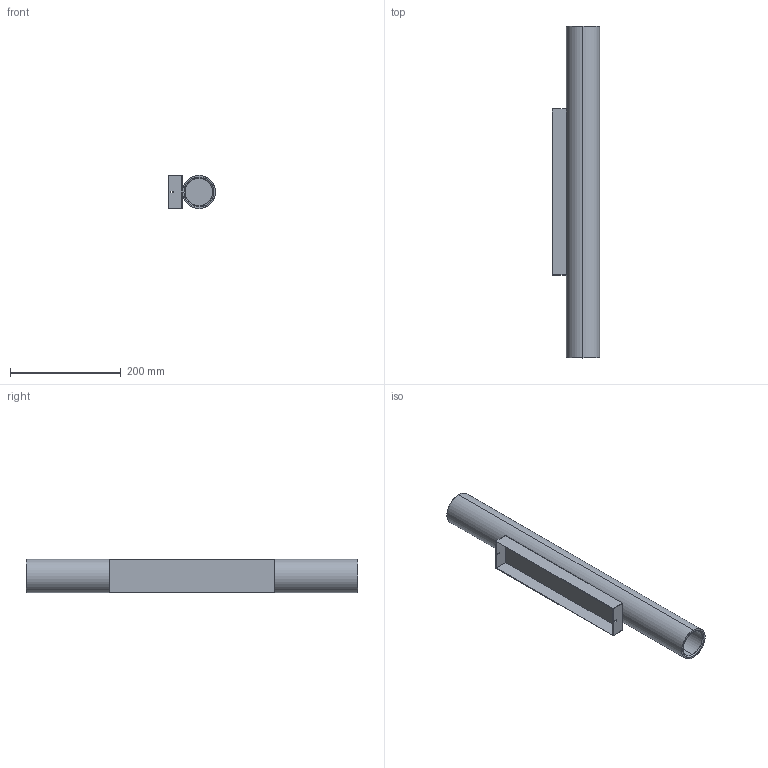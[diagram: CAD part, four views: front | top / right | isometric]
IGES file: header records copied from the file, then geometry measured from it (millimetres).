
Start section: SolidWorks IGES file using analytic representation for surfaces
Global section: file name: F:\燠隴矨\3D\2025-9\Volcanic Noir Wall Sconce-H60cm.IGS,15; native system: HSolidWorks 2022; preprocessor: SolidWorks 2022; author: MyPC; date: 250926.092007; units: millimetre
Bounding box: 85 x 600 x 60 mm (x, y, z)
Surface area: 236676 mm2 (no closed solid volume)
Topology: 0 solids, 0 shells, 33 faces, 640 edges, 640 vertices
Faces by surface type: bspline 23, revolution 10
